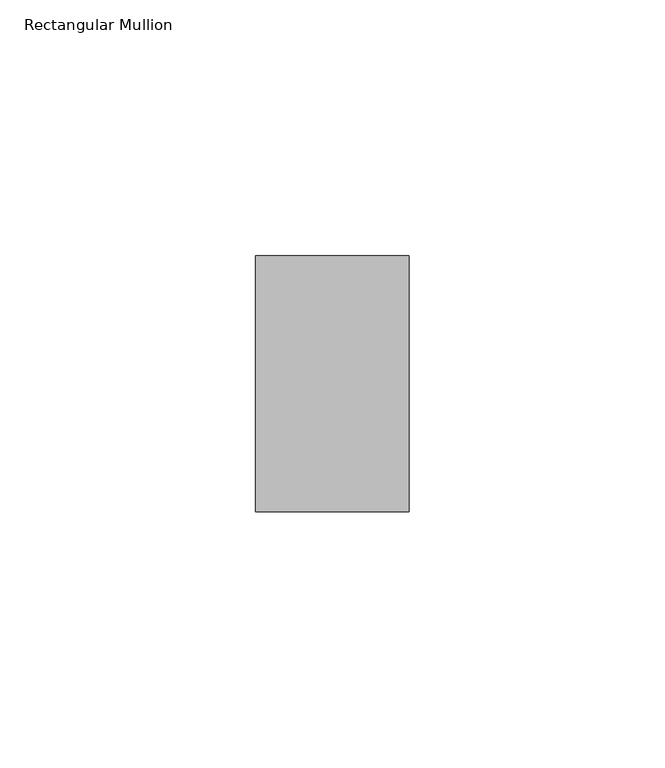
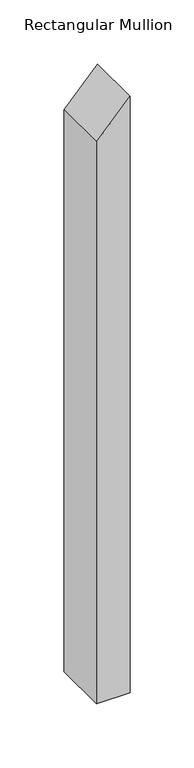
"""IFC4 building model written with IfcOpenShell, lengths in millimetres: member geometry, Rectangular Mullion : ARQ_TV_MULL_50x30mm."""

from ifc_helpers import new_model, si_unit, frame, origin, place, context, project, spatial, polyline, outline, extrude, source, transform, mapped, element, save


def rectangular_mullion_7228fb4c(model_context):
    return source(origin(), model_context, "Body", "SweptSolid", [
        extrude(outline(polyline([(0.0, 0.0), (-32.5178532, -30.0), (-565.2103967, -30.0), (-565.2103967, 0.0), (0.0, 0.0)])), frame((0.0, -25.0, 0.0), z_axis=(0.0, 1.0, 0.0), x_axis=(0.0, 0.0, 1.0)), (0.0, 0.0, 1.0), 50.0),
    ])


if __name__ == "__main__":
    model = new_model("IFC4")
    model_context = context("Model", 3, world=origin())
    ifc_project = project(units=[si_unit("LENGTHUNIT", "METRE", prefix="MILLI")], contexts=[model_context])
    site = spatial("IfcSite", under=ifc_project)
    building = spatial("IfcBuilding", under=site)
    placement = place(None, origin())
    rectangular_mullion_shape = rectangular_mullion_7228fb4c(model_context)
    element("IfcMember", 1, ObjectType="Rectangular Mullion : ARQ_TV_MULL_50x30mm", at=placement, inside=building, context=model_context, shape_type="MappedRepresentation", body=[
        mapped(rectangular_mullion_shape, transform((0.0, 0.0, 0.0), x_axis=(1.0, 0.0, 0.0), y_axis=(0.0, 1.0, 0.0), z_axis=(0.0, 0.0, 1.0))),
    ])
    save(model, "model.ifc")
